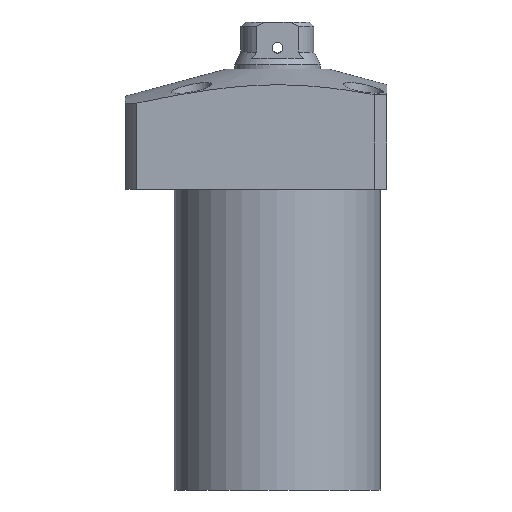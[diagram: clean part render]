
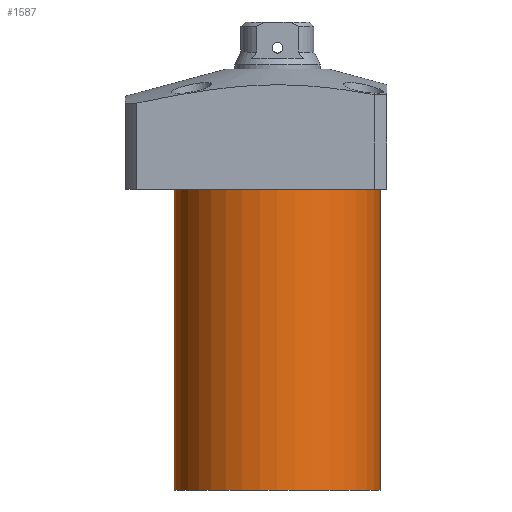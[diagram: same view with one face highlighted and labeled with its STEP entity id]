
A CAD part, front view. The second image highlights one B-rep face of the part: STEP entity #1587.
In plain terms, the highlighted cylindrical face has radius 24 mm (diameter 48 mm), a partial arc.
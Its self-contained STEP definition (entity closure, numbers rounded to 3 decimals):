
#53 = EDGE_CURVE ( 'NONE', #1367, #1093, #831, .T. ) ;
#194 = AXIS2_PLACEMENT_3D ( 'NONE', #308, #703, #1780 ) ;
#220 = DIRECTION ( 'NONE',  ( 0., 0., -1. ) ) ;
#308 = CARTESIAN_POINT ( 'NONE',  ( 0., 0., -14. ) ) ;
#333 = CARTESIAN_POINT ( 'NONE',  ( 24., 0., -84. ) ) ;
#421 = EDGE_CURVE ( 'NONE', #1367, #1143, #1726, .T. ) ;
#494 = ORIENTED_EDGE ( 'NONE', *, *, #648, .F. ) ;
#648 = EDGE_CURVE ( 'NONE', #1143, #1051, #2634, .T. ) ;
#655 = DIRECTION ( 'NONE',  ( 0., 0., 1. ) ) ;
#703 = DIRECTION ( 'NONE',  ( 0., 0., -1. ) ) ;
#776 = EDGE_LOOP ( 'NONE', ( #494, #1852, #1859, #1815 ) ) ;
#831 = LINE ( 'NONE', #1913, #2612 ) ;
#1051 = VERTEX_POINT ( 'NONE', #2655 ) ;
#1093 = VERTEX_POINT ( 'NONE', #1204 ) ;
#1143 = VERTEX_POINT ( 'NONE', #1454 ) ;
#1204 = CARTESIAN_POINT ( 'NONE',  ( 24., 0., -14. ) ) ;
#1227 = DIRECTION ( 'NONE',  ( -1., 0., 0. ) ) ;
#1352 = AXIS2_PLACEMENT_3D ( 'NONE', #1737, #2552, #2568 ) ;
#1367 = VERTEX_POINT ( 'NONE', #333 ) ;
#1442 = DIRECTION ( 'NONE',  ( 0., 0., 1. ) ) ;
#1454 = CARTESIAN_POINT ( 'NONE',  ( -24., 0., -84. ) ) ;
#1509 = AXIS2_PLACEMENT_3D ( 'NONE', #2485, #220, #1227 ) ;
#1587 = ADVANCED_FACE ( 'NONE', ( #2513 ), #2092, .T. ) ;
#1726 = CIRCLE ( 'NONE', #1509, 24. ) ;
#1737 = CARTESIAN_POINT ( 'NONE',  ( 0., 0., -84. ) ) ;
#1780 = DIRECTION ( 'NONE',  ( 1., 0., 0. ) ) ;
#1798 = EDGE_CURVE ( 'NONE', #1093, #1051, #2035, .T. ) ;
#1815 = ORIENTED_EDGE ( 'NONE', *, *, #1798, .T. ) ;
#1852 = ORIENTED_EDGE ( 'NONE', *, *, #421, .F. ) ;
#1859 = ORIENTED_EDGE ( 'NONE', *, *, #53, .T. ) ;
#1913 = CARTESIAN_POINT ( 'NONE',  ( 24., 0., -84. ) ) ;
#2035 = CIRCLE ( 'NONE', #194, 24. ) ;
#2086 = VECTOR ( 'NONE', #1442, 1000. ) ;
#2092 = CYLINDRICAL_SURFACE ( 'NONE', #1352, 24. ) ;
#2115 = CARTESIAN_POINT ( 'NONE',  ( -24., 0., -84. ) ) ;
#2485 = CARTESIAN_POINT ( 'NONE',  ( 0., 0., -84. ) ) ;
#2513 = FACE_OUTER_BOUND ( 'NONE', #776, .T. ) ;
#2552 = DIRECTION ( 'NONE',  ( 0., 0., 1. ) ) ;
#2568 = DIRECTION ( 'NONE',  ( 1., 0., 0. ) ) ;
#2612 = VECTOR ( 'NONE', #655, 1000. ) ;
#2634 = LINE ( 'NONE', #2115, #2086 ) ;
#2655 = CARTESIAN_POINT ( 'NONE',  ( -24., 0., -14. ) ) ;
